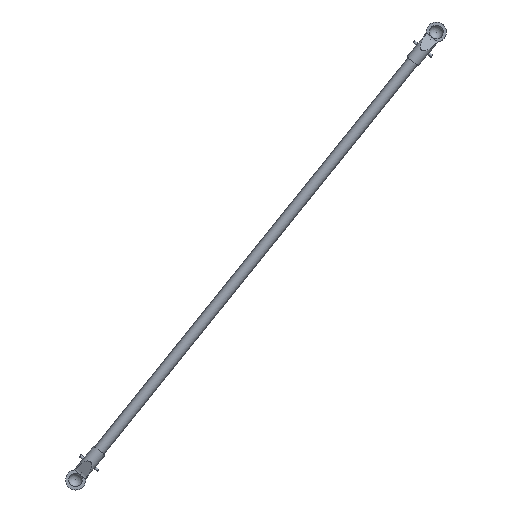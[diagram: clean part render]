
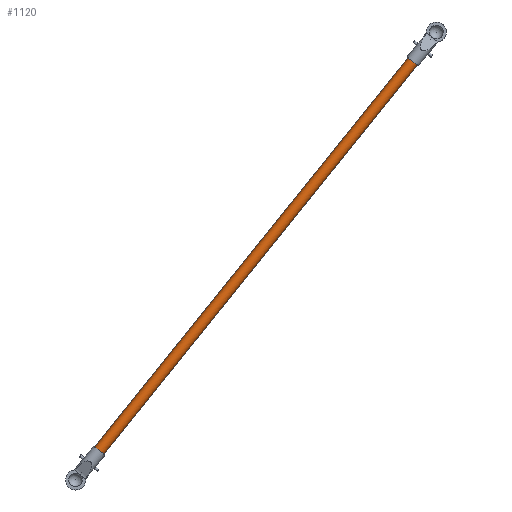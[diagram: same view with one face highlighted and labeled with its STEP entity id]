
A CAD part, front view. The second image highlights one B-rep face of the part: STEP entity #1120.
In plain terms, the highlighted cylindrical face has radius 8 mm (diameter 16 mm), a partial arc.
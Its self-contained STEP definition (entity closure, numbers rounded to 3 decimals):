
#1 = ORIENTED_EDGE ( 'NONE', *, *, #544, .F. ) ;
#14 = ORIENTED_EDGE ( 'NONE', *, *, #46, .T. ) ;
#46 = EDGE_CURVE ( 'NONE', #819, #1231, #1445, .T. ) ;
#63 = CARTESIAN_POINT ( 'NONE',  ( 87.296, 52., -862.039 ) ) ;
#97 = DIRECTION ( 'NONE',  ( 0.627, 0., 0.779 ) ) ;
#139 = DIRECTION ( 'NONE',  ( 0.627, 0., 0.779 ) ) ;
#194 = DIRECTION ( 'NONE',  ( -0.779, 0., 0.627 ) ) ;
#246 = LINE ( 'NONE', #1110, #1470 ) ;
#274 = EDGE_CURVE ( 'NONE', #459, #1530, #672, .T. ) ;
#432 = DIRECTION ( 'NONE',  ( -0.779, 0., 0.627 ) ) ;
#459 = VERTEX_POINT ( 'NONE', #1553 ) ;
#495 = VECTOR ( 'NONE', #97, 1000. ) ;
#544 = EDGE_CURVE ( 'NONE', #459, #1231, #246, .T. ) ;
#550 = CARTESIAN_POINT ( 'NONE',  ( 517.074, 52., -315.797 ) ) ;
#593 = CARTESIAN_POINT ( 'NONE',  ( 69.146, 52., -871.816 ) ) ;
#604 = ORIENTED_EDGE ( 'NONE', *, *, #274, .T. ) ;
#672 = CIRCLE ( 'NONE', #1190, 8. ) ;
#754 = EDGE_CURVE ( 'NONE', #1530, #819, #1046, .T. ) ;
#786 = DIRECTION ( 'NONE',  ( -0.627, 0., -0.779 ) ) ;
#819 = VERTEX_POINT ( 'NONE', #1055 ) ;
#842 = FACE_OUTER_BOUND ( 'NONE', #1184, .T. ) ;
#880 = DIRECTION ( 'NONE',  ( -0.779, 0., 0.627 ) ) ;
#912 = AXIS2_PLACEMENT_3D ( 'NONE', #593, #1165, #432 ) ;
#1004 = CARTESIAN_POINT ( 'NONE',  ( 81.066, 52., -857.02 ) ) ;
#1046 = LINE ( 'NONE', #1545, #495 ) ;
#1054 = CYLINDRICAL_SURFACE ( 'NONE', #912, 8. ) ;
#1055 = CARTESIAN_POINT ( 'NONE',  ( 523.304, 52., -320.816 ) ) ;
#1075 = ORIENTED_EDGE ( 'NONE', *, *, #754, .T. ) ;
#1082 = AXIS2_PLACEMENT_3D ( 'NONE', #550, #786, #194 ) ;
#1110 = CARTESIAN_POINT ( 'NONE',  ( 62.917, 52., -866.797 ) ) ;
#1120 = ADVANCED_FACE ( 'NONE', ( #842 ), #1054, .T. ) ;
#1165 = DIRECTION ( 'NONE',  ( 0.627, 0., 0.779 ) ) ;
#1184 = EDGE_LOOP ( 'NONE', ( #604, #1075, #14, #1 ) ) ;
#1190 = AXIS2_PLACEMENT_3D ( 'NONE', #1004, #139, #880 ) ;
#1229 = CARTESIAN_POINT ( 'NONE',  ( 510.844, 52., -310.778 ) ) ;
#1231 = VERTEX_POINT ( 'NONE', #1229 ) ;
#1445 = CIRCLE ( 'NONE', #1082, 8. ) ;
#1464 = DIRECTION ( 'NONE',  ( 0.627, 0., 0.779 ) ) ;
#1470 = VECTOR ( 'NONE', #1464, 1000. ) ;
#1530 = VERTEX_POINT ( 'NONE', #63 ) ;
#1545 = CARTESIAN_POINT ( 'NONE',  ( 75.376, 52., -876.835 ) ) ;
#1553 = CARTESIAN_POINT ( 'NONE',  ( 74.836, 52., -852.001 ) ) ;
